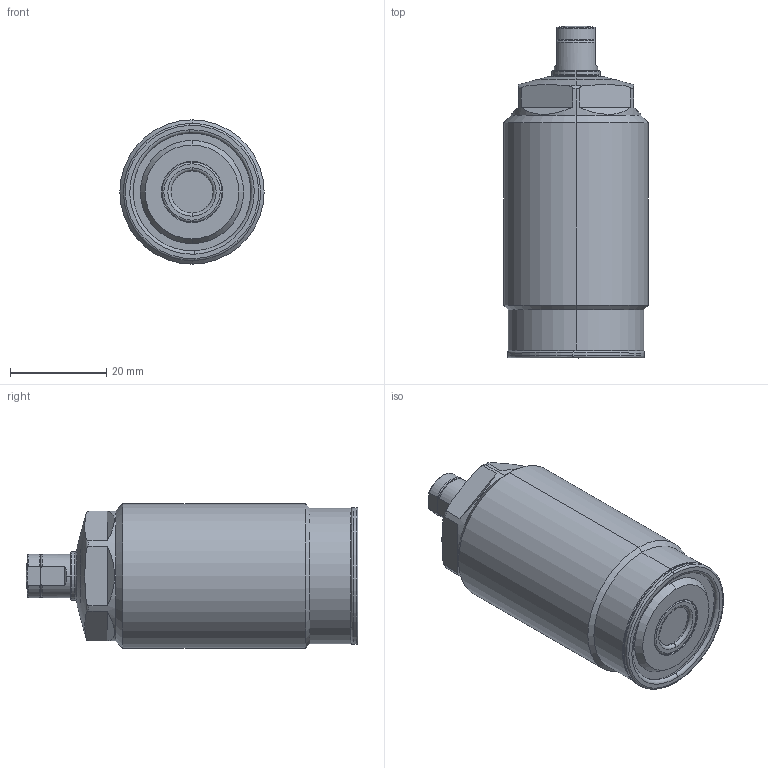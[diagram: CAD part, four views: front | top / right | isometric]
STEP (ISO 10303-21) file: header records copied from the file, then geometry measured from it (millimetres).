
FILE_DESCRIPTION(/* description */ (''),/* implementation_level */ '2;1');
FILE_NAME(/* name */ 'TNL30.stp',/* time_stamp */ '2022-11-17T13:21:20+08:00',/* author */ (''),/* organization */ (''),/* preprocessor_version */ 'ST-DEVELOPER v16.7',/* originating_system */ 'SIEMENS PLM Software NX 12.0',/* authorisation */ '');
FILE_SCHEMA (('AP203_CONFIGURATION_CONTROLLED_3D_DESIGN_OF_MECHANICAL_PARTS_AND_ASSEMBLIES_MIM_LF { 1 0 10303 403 2 1 2}'));
Length unit declared in the file: millimetre
Products named in the file (6): TNL30-03; TNL30-05; TNL30-02; TNL30-01; TNL30-04; WNC1003-x_step
Assembly tree (5 placements, depth 2):
  WNC1003-x_step
    TNL30-04
    TNL30-01
    TNL30-02
    TNL30-05
    TNL30-03
Bounding box: 30 x 69 x 30 mm (x, y, z)
Volume: 38669.5 mm3; surface area: 8236.6 mm2
Topology: 5 solids, 5 shells, 143 faces, 313 edges, 189 vertices
Faces by surface type: torus 49, cylinder 36, plane 36, cone 20, sphere 2
Entity records: 4973 total; most frequent: CARTESIAN_POINT 1083, DIRECTION 758, ORIENTED_EDGE 626, AXIS2_PLACEMENT_3D 336, EDGE_CURVE 313, VERTEX_POINT 189, CIRCLE 187, EDGE_LOOP 156
